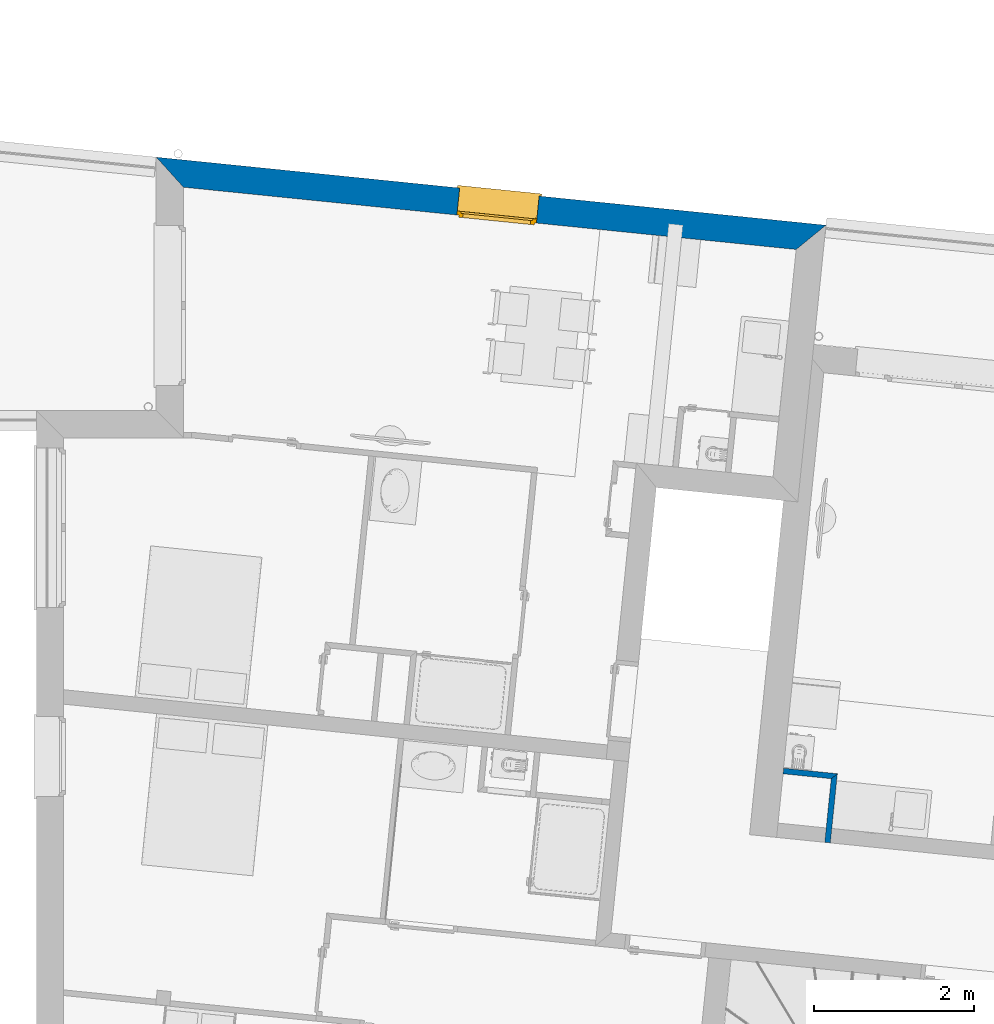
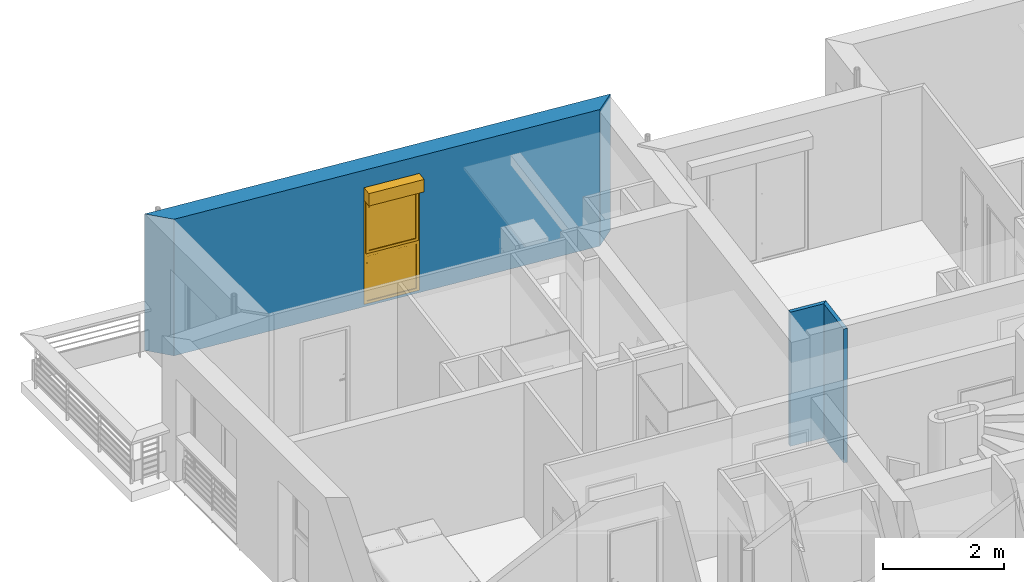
# One storey, part 64 of 164: 3 walls, 1 window, 1 opening.
"""IFC2X3 building model written with IfcOpenShell, lengths in millimetres."""

from ifc_helpers import new_model, entity, si_unit, converted_unit, derived_unit, money_unit, direction, frame, origin_with_axes, place, context, subcontext, project, spatial, polyline, outline, extrude, open_shell, faceted_brep, surface_model, source, transform, mapped, material, layer, layer_set, layer_usage, type_object, element, fill, save


model = new_model("IFC2X3")

# Units and contexts
model_context = context("Model", 3, precision=0.01, world=origin_with_axes(), true_north=direction((0.0, 1.0)))
body_context = subcontext(model_context, "Body", "Model", "MODEL_VIEW")
ifc_project = project(units=[si_unit("LENGTHUNIT", "METRE", prefix="MILLI"), si_unit("AREAUNIT", "SQUARE_METRE"), si_unit("VOLUMEUNIT", "CUBIC_METRE"), converted_unit("PLANEANGLEUNIT", "DEGREE", entity("IfcPlaneAngleMeasure", 0.0174532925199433), si_unit("PLANEANGLEUNIT", "RADIAN"), dimensions=[0, 0, 0, 0, 0, 0, 0]), money_unit("USD"), converted_unit("TIMEUNIT", "Year", entity("IfcTimeMeasure", 31557600.0), si_unit("TIMEUNIT", "SECOND"), dimensions=[0, 0, 1, 0, 0, 0, 0]), si_unit("MASSUNIT", "GRAM", prefix="KILO"), si_unit("THERMODYNAMICTEMPERATUREUNIT", "DEGREE_CELSIUS"), si_unit("LUMINOUSINTENSITYUNIT", "LUMEN"), si_unit("ENERGYUNIT", "JOULE", prefix="MEGA"), derived_unit("THERMALCONDUCTANCEUNIT", [(si_unit("POWERUNIT", "WATT"), 1), (si_unit("LENGTHUNIT", "METRE"), -1), (si_unit("THERMODYNAMICTEMPERATUREUNIT", "KELVIN"), -1)]), derived_unit("SPECIFICHEATCAPACITYUNIT", [(si_unit("ENERGYUNIT", "JOULE"), 1), (si_unit("MASSUNIT", "GRAM", prefix="KILO"), -1), (si_unit("THERMODYNAMICTEMPERATUREUNIT", "KELVIN"), -1)]), derived_unit("MASSDENSITYUNIT", [(si_unit("MASSUNIT", "GRAM", prefix="KILO"), 1), (si_unit("VOLUMEUNIT", "CUBIC_METRE"), -1)])], contexts=[model_context])

# Site, building, storey
site_placement = place(None, origin_with_axes())
site = spatial("IfcSite", under=ifc_project, at=site_placement, Name="Site", CompositionType="ELEMENT")
building_placement = place(site_placement, origin_with_axes())
building = spatial("IfcBuilding", under=site, at=building_placement, Name="Bâtiment", CompositionType="ELEMENT")
storey_placement = place(building_placement, frame((0.0, 0.0, 5750.0), z_axis=(0.0, 0.0, 1.0), x_axis=(1.0, 0.0, 0.0)))
storey = spatial("IfcBuildingStorey", under=building, at=storey_placement, Name="Etage1", CompositionType="ELEMENT", Elevation=5750.0)

# Walls
ifc_material_1 = material(Name="Hachure solide 269229667")
ifc_layer_1 = layer(ifc_material_1, 70.0, ventilated="UNKNOWN")
ifc_layer_set_1 = layer_set([ifc_layer_1], Name="Cloison 70 0836576958")
ifc_layer_usage_1 = layer_usage(ifc_layer_set_1, "AXIS2", "POSITIVE", 0.0)
wall_type_1 = type_object("IfcWallType", Name="Cloison 70 0836576958 70", PredefinedType="NOTDEFINED")
wall_1_placement = place(storey_placement, frame((2226567.530194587, -612573.9795899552, 0.0), z_axis=(0.0, 0.0, 1.0), x_axis=(0.1011029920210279, 0.9948759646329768, 0.0)))
element("IfcWallStandardCase", 1, at=wall_1_placement, inside=storey, type_object=wall_type_1, material=ifc_layer_usage_1, Name="Mur-148", context=body_context, shape_type="SweptSolid", body=[
    extrude(outline(polyline([(0.0, 0.0), (869.3850035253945, 0.0), (799.4288472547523, 69.99999999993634), (0.0, 69.99999999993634), (0.0, 0.0)])), origin_with_axes(), (0.0, 0.0, 1.0), 2700.0),
])
ifc_layer_usage_2 = layer_usage(ifc_layer_set_1, "AXIS2", "POSITIVE", 0.0)
wall_2_placement = place(storey_placement, frame((2226655.427619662, -611709.0493459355, 0.0), z_axis=(0.0, 0.0, 1.0), x_axis=(-0.9948124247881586, 0.1017262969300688, 0.0)))
element("IfcWallStandardCase", 2, at=wall_2_placement, inside=storey, type_object=wall_type_1, material=ifc_layer_usage_2, Name="Mur-148", context=body_context, shape_type="SweptSolid", body=[
    extrude(outline(polyline([(0.0, 0.0), (675.8383070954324, 0.0), (675.7944658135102, 69.99999999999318), (69.95615627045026, 69.99999999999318), (0.0, 0.0)])), origin_with_axes(), (0.0, 0.0, 1.0), 2700.0),
])

# Wall, opening, window
ifc_material_2 = material(Name="Parpaing 312445824")
ifc_layer_2 = layer(ifc_material_2, 180.0, ventilated="UNKNOWN")
ifc_material_3 = material(Name="Isolant styromousse 301821074")
ifc_layer_3 = layer(ifc_material_3, 160.0, ventilated="UNKNOWN")
ifc_layer_set_2 = layer_set([ifc_layer_2, ifc_layer_3], Name="isol int 18+16 0018356637")
ifc_layer_usage_3 = layer_usage(ifc_layer_set_2, "AXIS2", "POSITIVE", 0.0)
wall_type_2 = type_object("IfcWallType", Name="isol int 18+16 0018356637 340", PredefinedType="NOTDEFINED")
wall_3_placement = place(storey_placement, frame((2226512.64140385, -604846.9212674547, 0.0), z_axis=(0.0, 0.0, 1.0), x_axis=(-0.9948759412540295, 0.1011032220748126, 0.0)))
wall_3 = element("IfcWallStandardCase", 3, at=wall_3_placement, inside=storey, type_object=wall_type_2, material=ifc_layer_usage_3, Name="Mur-142", context=body_context, shape_type="SweptSolid", body=[
    extrude(outline(polyline([(0.0, 0.0), (8421.560630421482, 0.0), (8045.257334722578, 339.9999999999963), (340.0000338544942, 339.9999999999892), (0.0, 0.0)])), origin_with_axes(), (0.0, 0.0, 1.0), 2750.0),
])
opening_placement = place(wall_3_placement, frame((4106.165930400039, 0.0, 49.99999999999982), z_axis=(0.0, 0.0, 1.0), x_axis=(1.0, 0.0, 0.0)))
opening = element("IfcOpeningElement", 4, at=opening_placement, cuts=wall_3, Name="Fen-133", context=body_context, shape_type="Brep", body=[
    faceted_brep([(500.0, 280.0000000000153, 2100.0), (-500.0, 280.0000000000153, 2100.0), (-500.0, -848.084050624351, 2100.0), (499.9999999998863, -848.084050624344, 2100.0), (500.0, 280.0000000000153, 2350.0), (-500.0, 280.0000000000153, 2350.0), (-500.0, 289.9999999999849, 2100.0), (-500.0000000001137, 289.9999999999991, 0.0), (-500.0, -848.084050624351, 0.0), (499.9999999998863, -848.084050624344, 0.0), (499.9999999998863, 290.0000000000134, 2100.0), (499.9999999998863, 290.0000000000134, 0.0), (499.9999999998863, 530.0000000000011, 2100.0), (499.9999999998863, 530.0000000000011, 2350.0), (-500.0000000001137, 530.0000000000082, 2350.0), (-500.0000000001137, 530.0000000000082, 2100.0), (-500.0000000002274, 1188.084050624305, 2100.0), (-500.0000000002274, 1188.084050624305, 0.0), (500.0, 1188.084050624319, 0.0), (500.0, 1188.084050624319, 2100.0)], [[[0, 1, 2, 3]], [[1, 0, 4, 5]], [[1, 6, 7, 8, 2]], [[2, 8, 9, 3]], [[10, 0, 3, 9, 11]], [[0, 10, 12, 13, 4]], [[4, 13, 14, 5]], [[6, 1, 5, 14, 15]], [[6, 15, 16, 17, 7]], [[11, 9, 8, 7, 17, 18]], [[12, 10, 11, 18, 19]], [[12, 15, 14, 13]], [[15, 12, 19, 16]], [[19, 18, 17, 16]]]),
])
window_style = type_object("IfcWindowStyle", Name="Fenêtre 27", ConstructionType="NOTDEFINED", OperationType="DOUBLE_PANEL_HORIZONTAL", ParameterTakesPrecedence=False, Sizeable=False)
shared_shape = source(origin_with_axes(), body_context, "Body", "SurfaceModel", [
    surface_model("IfcShellBasedSurfaceModel", [(500.0, -51.00000000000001, 40.00000000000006), (500.0, -51.00000000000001, 50.00000000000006), (-500.0, -51.00000000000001, 50.0), (-500.0, -51.00000000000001, 40.0), (530.0, -369.9999999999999, 28.96551724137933), (530.0, -339.9999999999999, 30.00324289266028), (500.0, -339.9999999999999, 30.00324289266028), (-500.0, -339.9999999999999, 30.00324289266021), (-530.0, -339.9999999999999, 30.00324289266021), (-530.0, -369.9999999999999, 28.96551724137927), (530.0, -369.9999999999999, 8.96551724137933), (-530.0, -369.9999999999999, 8.965517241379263), (530.0, -359.9999999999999, 18.96551724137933), (-530.0, -359.9999999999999, 18.96551724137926)], [open_shell([[[0, 1, 2, 3]], [[4, 5, 6, 0, 3, 7, 8, 9]], [[10, 4, 9, 11]], [[12, 10, 11, 13]]])]),
    faceted_brep([(-500.0, -59.99999999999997, 2350.0), (-497.0, -59.99999999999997, 2350.0), (-497.0, 190.0, 2350.0), (-500.0, 190.0, 2350.0), (-500.0, -59.99999999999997, 2100.0), (-497.0, -59.99999999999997, 2100.0), (-497.0, 190.0, 2100.0), (-500.0, 190.0, 2100.0)], [[[0, 1, 2, 3]], [[4, 5, 1, 0]], [[1, 5, 6, 2]], [[3, 2, 6, 7]], [[0, 3, 7, 4]], [[7, 6, 5, 4]]]),
    faceted_brep([(497.0, -59.99999999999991, 2350.0), (500.0, -59.99999999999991, 2350.0), (500.0, 190.0000000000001, 2350.0), (497.0, 190.0000000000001, 2350.0), (497.0, -59.99999999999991, 2100.0), (500.0, -59.99999999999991, 2100.0), (500.0, 190.0000000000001, 2100.0), (497.0, 190.0000000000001, 2100.0)], [[[0, 1, 2, 3]], [[4, 5, 1, 0]], [[1, 5, 6, 2]], [[3, 2, 6, 7]], [[0, 3, 7, 4]], [[7, 6, 5, 4]]]),
    faceted_brep([(-497.0, -60.0, 2100.0), (497.0, -59.99999999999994, 2100.0), (497.0, -59.99999999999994, 2350.0), (-497.0, -60.0, 2350.0), (-497.0, -56.99999999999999, 2100.0), (497.0, -56.99999999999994, 2100.0), (497.0, -56.99999999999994, 2347.0), (497.0, 187.0000000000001, 2347.0), (497.0, 187.0000000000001, 2103.0), (497.0, -37.99999999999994, 2103.0), (497.0, -37.99999999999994, 2100.0), (497.0, 190.0000000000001, 2100.0), (497.0, 190.0000000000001, 2350.0), (-497.0, 190.0, 2350.0), (-497.0, 190.0, 2100.0), (-497.0, -37.99999999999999, 2100.0), (-497.0, -37.99999999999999, 2103.0), (-497.0, 187.0, 2103.0), (-497.0, 187.0, 2347.0), (-497.0, -56.99999999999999, 2347.0)], [[[0, 1, 2, 3]], [[4, 5, 1, 0]], [[1, 5, 6, 7, 8, 9, 10, 11, 12, 2]], [[3, 2, 12, 13]], [[0, 3, 13, 14, 15, 16, 17, 18, 19, 4]], [[19, 6, 5, 4]], [[18, 7, 6, 19]], [[17, 8, 7, 18]], [[16, 9, 8, 17]], [[15, 10, 9, 16]], [[14, 11, 10, 15]], [[13, 12, 11, 14]]]),
    faceted_brep([(-494.0, -40.37442957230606, 2206.419644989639), (-494.0, -41.99999999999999, 2225.0), (-494.0, -40.37442957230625, 2243.580355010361), (-494.0, -35.54711042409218, 2261.596155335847), (-494.0, -27.66471820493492, 2278.5), (-494.0, -16.96675541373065, 2293.77827423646), (-494.0, -3.778274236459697, 2306.966755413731), (-494.0, 11.5, 2317.664718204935), (-494.0, 28.40384466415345, 2325.547110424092), (-494.0, 46.41964498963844, 2330.374429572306), (-494.0, 64.99999999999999, 2332.0), (-494.0, 83.58035501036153, 2330.374429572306), (-494.0, 101.5961553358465, 2325.547110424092), (-494.0, 118.5, 2317.664718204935), (-494.0, 133.7782742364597, 2306.966755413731), (-494.0, 146.9667554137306, 2293.77827423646), (-494.0, 157.6647182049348, 2278.5), (-494.0, 165.5471104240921, 2261.596155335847), (-494.0, 170.3744295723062, 2243.580355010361), (-494.0, 171.9999999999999, 2225.0), (-494.0, 170.3744295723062, 2206.419644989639), (-494.0, 165.5471104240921, 2188.403844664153), (-494.0, 157.6647182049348, 2171.5), (-494.0, 146.9667554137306, 2156.22172576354), (-494.0, 133.7782742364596, 2143.03324458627), (-494.0, 118.4999999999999, 2132.335281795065), (-494.0, 101.5961553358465, 2124.452889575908), (-494.0, 83.58035501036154, 2119.625570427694), (-494.0, 65.00000000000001, 2118.0), (-494.0, 46.4196449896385, 2119.625570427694), (-494.0, 28.40384466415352, 2124.452889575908), (-494.0, 11.50000000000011, 2132.335281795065), (-494.0, -3.778274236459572, 2143.03324458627), (-494.0, -16.9667554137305, 2156.22172576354), (-494.0, -27.66471820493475, 2171.5), (-494.0, -35.54711042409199, 2188.403844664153), (494.0, -40.374429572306, 2206.419644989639), (494.0, -41.99999999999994, 2225.0), (494.0, -40.37442957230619, 2243.580355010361), (494.0, -35.54711042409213, 2261.596155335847), (494.0, -27.66471820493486, 2278.5), (494.0, -16.96675541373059, 2293.77827423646), (494.0, -3.778274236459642, 2306.966755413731), (494.0, 11.50000000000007, 2317.664718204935), (494.0, 28.40384466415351, 2325.547110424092), (494.0, 46.41964498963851, 2330.374429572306), (494.0, 65.00000000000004, 2332.0), (494.0, 83.58035501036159, 2330.374429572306), (494.0, 101.5961553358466, 2325.547110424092), (494.0, 118.5, 2317.664718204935), (494.0, 133.7782742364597, 2306.966755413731), (494.0, 146.9667554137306, 2293.77827423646), (494.0, 157.6647182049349, 2278.5), (494.0, 165.5471104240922, 2261.596155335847), (494.0, 170.3744295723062, 2243.580355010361), (494.0, 172.0, 2225.0), (494.0, 170.3744295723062, 2206.419644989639), (494.0, 165.5471104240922, 2188.403844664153), (494.0, 157.6647182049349, 2171.5), (494.0, 146.9667554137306, 2156.22172576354), (494.0, 133.7782742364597, 2143.03324458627), (494.0, 118.5, 2132.335281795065), (494.0, 101.5961553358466, 2124.452889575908), (494.0, 83.5803550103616, 2119.625570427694), (494.0, 65.00000000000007, 2118.0), (494.0, 46.41964498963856, 2119.625570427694), (494.0, 28.40384466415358, 2124.452889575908), (494.0, 11.50000000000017, 2132.335281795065), (494.0, -3.778274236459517, 2143.03324458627), (494.0, -16.96675541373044, 2156.22172576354), (494.0, -27.6647182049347, 2171.5), (494.0, -35.54711042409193, 2188.403844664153)], [[[0, 1, 2, 3, 4, 5, 6, 7, 8, 9, 10, 11, 12, 13, 14, 15, 16, 17, 18, 19, 20, 21, 22, 23, 24, 25, 26, 27, 28, 29, 30, 31, 32, 33, 34, 35]], [[0, 36, 37, 1]], [[1, 37, 38, 2]], [[2, 38, 39, 3]], [[3, 39, 40, 4]], [[4, 40, 41, 5]], [[5, 41, 42, 6]], [[6, 42, 43, 7]], [[7, 43, 44, 8]], [[8, 44, 45, 9]], [[9, 45, 46, 10]], [[10, 46, 47, 11]], [[11, 47, 48, 12]], [[12, 48, 49, 13]], [[13, 49, 50, 14]], [[14, 50, 51, 15]], [[15, 51, 52, 16]], [[16, 52, 53, 17]], [[17, 53, 54, 18]], [[18, 54, 55, 19]], [[19, 55, 56, 20]], [[20, 56, 57, 21]], [[21, 57, 58, 22]], [[22, 58, 59, 23]], [[23, 59, 60, 24]], [[24, 60, 61, 25]], [[25, 61, 62, 26]], [[26, 62, 63, 27]], [[27, 63, 64, 28]], [[28, 64, 65, 29]], [[29, 65, 66, 30]], [[30, 66, 67, 31]], [[31, 67, 68, 32]], [[32, 68, 69, 33]], [[33, 69, 70, 34]], [[34, 70, 71, 35]], [[35, 71, 36, 0]], [[36, 71, 70, 69, 68, 67, 66, 65, 64, 63, 62, 61, 60, 59, 58, 57, 56, 55, 54, 53, 52, 51, 50, 49, 48, 47, 46, 45, 44, 43, 42, 41, 40, 39, 38, 37]]]),
    faceted_brep([(500.0, -34.99999999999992, 30.0), (500.0, -34.99999999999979, 2100.0), (500.0, -59.99999999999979, 2100.0), (500.0, -59.99999999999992, 30.0), (475.0, -34.99999999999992, 30.0), (475.0, -34.99999999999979, 2100.0), (475.0, -37.99999999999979, 2100.0), (497.0, -37.99999999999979, 2100.0), (497.0, -56.99999999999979, 2100.0), (475.0, -56.99999999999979, 2100.0), (475.0, -59.99999999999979, 2100.0), (475.0, -59.99999999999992, 30.0), (475.0, -56.99999999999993, 30.0), (497.0, -56.99999999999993, 30.0), (497.0, -37.99999999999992, 30.0), (475.0, -37.99999999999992, 30.0)], [[[0, 1, 2, 3]], [[4, 5, 1, 0]], [[1, 5, 6, 7, 8, 9, 10, 2]], [[3, 2, 10, 11]], [[0, 3, 11, 12, 13, 14, 15, 4]], [[15, 6, 5, 4]], [[14, 7, 6, 15]], [[13, 8, 7, 14]], [[12, 9, 8, 13]], [[11, 10, 9, 12]]]),
    faceted_brep([(-500.0, -34.99999999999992, 30.0), (-500.0, -59.99999999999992, 30.0), (-500.0, -59.99999999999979, 2100.0), (-500.0, -34.99999999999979, 2100.0), (-475.0, -34.99999999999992, 30.0), (-475.0, -37.99999999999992, 30.0), (-497.0, -37.99999999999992, 30.0), (-497.0, -56.99999999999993, 30.0), (-475.0, -56.99999999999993, 30.0), (-475.0, -59.99999999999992, 30.0), (-475.0, -59.99999999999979, 2100.0), (-475.0, -56.99999999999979, 2100.0), (-497.0, -56.99999999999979, 2100.0), (-497.0, -37.99999999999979, 2100.0), (-475.0, -37.99999999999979, 2100.0), (-475.0, -34.99999999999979, 2100.0)], [[[0, 1, 2, 3]], [[0, 4, 5, 6, 7, 8, 9, 1]], [[1, 9, 10, 2]], [[3, 2, 10, 11, 12, 13, 14, 15]], [[4, 0, 3, 15]], [[5, 4, 15, 14]], [[6, 5, 14, 13]], [[7, 6, 13, 12]], [[8, 7, 12, 11]], [[9, 8, 11, 10]]]),
    faceted_brep([(497.0, -46.66666666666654, 2225.0), (497.0, -46.66666666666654, 2216.666666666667), (-497.0, -46.6666666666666, 2216.666666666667), (-497.0, -46.6666666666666, 2225.0), (497.0, -51.66666666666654, 2225.0), (497.0, -51.66666666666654, 2216.666666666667), (497.0, -49.99999999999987, 2200.0), (497.0, -44.99999999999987, 2200.0), (-497.0, -44.99999999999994, 2200.0), (-497.0, -49.99999999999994, 2200.0), (-497.0, -51.6666666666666, 2216.666666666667), (-497.0, -51.6666666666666, 2225.0)], [[[0, 1, 2, 3]], [[4, 5, 6, 7, 1, 0]], [[2, 1, 7, 8]], [[3, 2, 8, 9, 10, 11]], [[3, 11, 4, 0]], [[10, 5, 4, 11]], [[9, 6, 5, 10]], [[8, 7, 6, 9]]]),
    faceted_brep([(-497.0, -44.99999999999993, 2200.0), (497.0, -44.99999999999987, 2200.0), (497.0, -46.66666666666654, 2183.333333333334), (-497.0, -46.6666666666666, 2183.333333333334), (-497.0, -49.99999999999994, 2200.0), (497.0, -49.99999999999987, 2200.0), (497.0, -51.66666666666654, 2183.333333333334), (497.0, -51.66666666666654, 2166.666666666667), (497.0, -49.99999999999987, 2150.000000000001), (497.0, -44.99999999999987, 2150.000000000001), (497.0, -46.66666666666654, 2166.666666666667), (-497.0, -46.6666666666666, 2166.666666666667), (-497.0, -44.99999999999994, 2150.000000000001), (-497.0, -49.99999999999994, 2150.000000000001), (-497.0, -51.6666666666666, 2166.666666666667), (-497.0, -51.6666666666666, 2183.333333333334)], [[[0, 1, 2, 3]], [[4, 5, 1, 0]], [[1, 5, 6, 7, 8, 9, 10, 2]], [[3, 2, 10, 11]], [[0, 3, 11, 12, 13, 14, 15, 4]], [[15, 6, 5, 4]], [[14, 7, 6, 15]], [[13, 8, 7, 14]], [[12, 9, 8, 13]], [[11, 10, 9, 12]]]),
    faceted_brep([(-497.0, -44.99999999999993, 2150.000000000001), (497.0, -44.99999999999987, 2150.000000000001), (497.0, -46.66666666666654, 2133.333333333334), (-497.0, -46.6666666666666, 2133.333333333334), (-497.0, -49.99999999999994, 2150.000000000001), (497.0, -49.99999999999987, 2150.000000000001), (497.0, -51.66666666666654, 2133.333333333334), (497.0, -51.66666666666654, 2116.666666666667), (497.0, -49.99999999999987, 2100.000000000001), (497.0, -44.99999999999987, 2100.000000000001), (497.0, -46.66666666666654, 2116.666666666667), (-497.0, -46.6666666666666, 2116.666666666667), (-497.0, -44.99999999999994, 2100.000000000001), (-497.0, -49.99999999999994, 2100.000000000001), (-497.0, -51.6666666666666, 2116.666666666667), (-497.0, -51.6666666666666, 2133.333333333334)], [[[0, 1, 2, 3]], [[4, 5, 1, 0]], [[1, 5, 6, 7, 8, 9, 10, 2]], [[3, 2, 10, 11]], [[0, 3, 11, 12, 13, 14, 15, 4]], [[15, 6, 5, 4]], [[14, 7, 6, 15]], [[13, 8, 7, 14]], [[12, 9, 8, 13]], [[11, 10, 9, 12]]]),
    faceted_brep([(-475.0000000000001, 0.0, 2050.0), (-500.0, 0.0, 2050.0), (-500.0, -50.00000000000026, 2050.0), (-450.0, -50.00000000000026, 2050.0), (-450.0, -25.00000000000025, 2050.0), (-475.0000000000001, -25.00000000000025, 2050.0), (-475.0000000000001, 0.0, 1025.0), (-450.0, 0.0, 1025.0), (-450.0, 0.0, 950.0), (-450.0, 0.0, 50.00000000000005), (-500.0, 0.0, 50.00000000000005), (-500.0, -50.00000000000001, 50.00000000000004), (-450.0, -50.00000000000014, 1050.0), (-450.0, -50.00000000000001, 50.00000000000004), (-450.0, -50.00000000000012, 950.0), (-450.0, -25.00000000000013, 1050.0), (-450.0, -25.00000000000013, 1025.0), (-475.0000000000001, -25.00000000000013, 1025.0)], [[[0, 1, 2, 3, 4, 5]], [[6, 7, 8, 9, 10, 1, 0]], [[1, 10, 11, 2]], [[12, 3, 2, 11, 13, 14]], [[4, 3, 12, 15]], [[15, 16, 17, 5, 4]], [[5, 17, 6, 0]], [[6, 17, 16, 7]], [[16, 15, 12, 14, 8, 7]], [[9, 8, 14, 13]], [[10, 9, 13, 11]]]),
    faceted_brep([(450.0, -25.00000000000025, 2050.0), (450.0, -50.00000000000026, 2050.0), (500.0, -50.00000000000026, 2050.0), (500.0, 0.0, 2050.0), (475.0000000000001, 0.0, 2050.0), (475.0000000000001, -25.00000000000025, 2050.0), (450.0, -25.00000000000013, 1050.0), (450.0, -50.00000000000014, 1050.0), (500.0, -50.00000000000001, 50.00000000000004), (450.0, -50.00000000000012, 950.0), (450.0, -50.00000000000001, 50.00000000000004), (500.0, 0.0, 50.00000000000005), (475.0000000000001, 0.0, 1025.0), (450.0, 0.0, 50.00000000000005), (450.0, 0.0, 950.0), (450.0, 0.0, 1025.0), (475.0000000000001, -25.00000000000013, 1025.0), (450.0, -25.00000000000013, 1025.0)], [[[0, 1, 2, 3, 4, 5]], [[6, 7, 1, 0]], [[8, 2, 1, 7, 9, 10]], [[11, 3, 2, 8]], [[12, 4, 3, 11, 13, 14, 15]], [[12, 16, 5, 4]], [[5, 16, 17, 6, 0]], [[17, 15, 14, 9, 7, 6]], [[14, 13, 10, 9]], [[13, 11, 8, 10]], [[15, 17, 16, 12]]]),
    faceted_brep([(-450.0, -25.00000000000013, 1050.0), (-450.0, -50.00000000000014, 1050.0), (450.0, -50.00000000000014, 1050.0), (450.0, -25.00000000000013, 1050.0), (-450.0, -25.00000000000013, 1025.0), (-450.0, 0.0, 1025.0), (-450.0, 0.0, 950.0), (-450.0, -50.00000000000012, 950.0), (450.0, -50.00000000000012, 950.0), (450.0, -25.00000000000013, 1025.0), (450.0, 0.0, 950.0), (450.0, 0.0, 1025.0)], [[[0, 1, 2, 3]], [[4, 5, 6, 7, 1, 0]], [[8, 2, 1, 7]], [[9, 3, 2, 8, 10, 11]], [[9, 4, 0, 3]], [[5, 4, 9, 11]], [[11, 10, 6, 5]], [[6, 10, 8, 7]]]),
    faceted_brep([(-475.0000000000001, 0.0, 2050.0), (-500.0, 0.0, 2050.0), (-500.0, 0.0, 2100.0), (500.0, 0.0, 2100.0), (500.0, 0.0, 2050.0), (475.0000000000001, 0.0, 2050.0), (475.0000000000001, 0.0, 2075.0), (-475.0000000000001, 0.0, 2075.0), (-475.0000000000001, -25.00000000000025, 2050.0), (-450.0, -25.00000000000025, 2050.0), (-450.0, -50.00000000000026, 2050.0), (-500.0, -50.00000000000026, 2050.0), (-500.0, -50.00000000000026, 2100.0), (500.0, -50.00000000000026, 2100.0), (500.0, -50.00000000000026, 2050.0), (475.0000000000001, -25.00000000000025, 2050.0), (450.0, -50.00000000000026, 2050.0), (450.0, -25.00000000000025, 2050.0), (475.0000000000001, -25.00000000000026, 2075.0), (-475.0000000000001, -25.00000000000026, 2075.0)], [[[0, 1, 2, 3, 4, 5, 6, 7]], [[8, 9, 10, 11, 1, 0]], [[2, 1, 11, 12]], [[3, 2, 12, 13]], [[4, 3, 13, 14]], [[15, 5, 4, 14, 16, 17]], [[5, 15, 18, 6]], [[6, 18, 19, 7]], [[7, 19, 8, 0]], [[17, 9, 8, 19, 18, 15]], [[17, 16, 10, 9]], [[14, 13, 12, 11, 10, 16]]]),
    faceted_brep([(-450.0, -50.00000000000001, 50.0), (-450.0, 0.0, 50.00000000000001), (-500.0, 0.0, 50.00000000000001), (-500.0, -50.00000000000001, 50.0), (450.0, -50.00000000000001, 50.0), (450.0, 0.0, 50.00000000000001), (500.0, 0.0, 50.00000000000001), (500.0, 0.0, 0.0), (-500.0, 0.0, 0.0), (-500.0, -50.0, 0.0), (500.0, -50.0, 0.0), (500.0, -50.00000000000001, 50.0)], [[[0, 1, 2, 3]], [[4, 5, 1, 0]], [[1, 5, 6, 7, 8, 2]], [[3, 2, 8, 9]], [[0, 3, 9, 10, 11, 4]], [[11, 6, 5, 4]], [[10, 7, 6, 11]], [[9, 8, 7, 10]]]),
    faceted_brep([(-425.0000000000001, -25.00000000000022, 2025.0), (-425.0000000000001, 24.99999999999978, 2025.0), (-475.0000000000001, 24.99999999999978, 2025.0), (-475.0000000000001, -25.00000000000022, 2025.0), (-425.0000000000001, -25.00000000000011, 1075.0), (-425.0000000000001, 24.9999999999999, 1075.0), (-475.0000000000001, 24.9999999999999, 1075.0), (-475.0000000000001, -25.0000000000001, 1075.0)], [[[0, 1, 2, 3]], [[4, 5, 1, 0]], [[1, 5, 6, 2]], [[3, 2, 6, 7]], [[0, 3, 7, 4]], [[7, 6, 5, 4]]]),
    faceted_brep([(425.0000000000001, -25.00000000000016, 1075.0), (425.0000000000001, 24.99999999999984, 1075.0), (475.0000000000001, 24.99999999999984, 1075.0), (475.0000000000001, -25.00000000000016, 1075.0), (425.0000000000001, -25.00000000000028, 2025.0), (425.0000000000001, 24.99999999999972, 2025.0), (475.0000000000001, 24.99999999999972, 2025.0), (475.0000000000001, -25.00000000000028, 2025.0)], [[[0, 1, 2, 3]], [[4, 5, 1, 0]], [[1, 5, 6, 2]], [[3, 2, 6, 7]], [[0, 3, 7, 4]], [[7, 6, 5, 4]]]),
    faceted_brep([(475.0000000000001, -25.00000000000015, 1025.0), (475.0000000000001, 24.99999999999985, 1025.0), (475.0000000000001, 24.99999999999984, 1075.0), (475.0000000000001, -25.00000000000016, 1075.0), (-475.0000000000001, -25.0000000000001, 1025.0), (-475.0000000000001, 24.9999999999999, 1025.0), (-475.0000000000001, 24.9999999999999, 1075.0), (-425.0000000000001, 24.9999999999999, 1075.0), (425.0000000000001, 24.99999999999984, 1075.0), (425.0000000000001, -25.00000000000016, 1075.0), (-425.0000000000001, -25.00000000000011, 1075.0), (-475.0000000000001, -25.0000000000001, 1075.0)], [[[0, 1, 2, 3]], [[4, 5, 1, 0]], [[1, 5, 6, 7, 8, 2]], [[3, 2, 8, 9]], [[0, 3, 9, 10, 11, 4]], [[11, 6, 5, 4]], [[10, 7, 6, 11]], [[9, 8, 7, 10]]]),
    faceted_brep([(-475.0000000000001, -25.00000000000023, 2075.0), (-475.0000000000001, 24.99999999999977, 2075.0), (-475.0000000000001, 24.99999999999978, 2025.0), (-475.0000000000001, -25.00000000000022, 2025.0), (475.0000000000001, -25.00000000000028, 2075.0), (475.0000000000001, 24.99999999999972, 2075.0), (475.0000000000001, 24.99999999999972, 2025.0), (425.0000000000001, 24.99999999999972, 2025.0), (-425.0000000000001, 24.99999999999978, 2025.0), (-425.0000000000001, -25.00000000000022, 2025.0), (425.0000000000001, -25.00000000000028, 2025.0), (475.0000000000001, -25.00000000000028, 2025.0)], [[[0, 1, 2, 3]], [[4, 5, 1, 0]], [[1, 5, 6, 7, 8, 2]], [[3, 2, 8, 9]], [[0, 3, 9, 10, 11, 4]], [[11, 6, 5, 4]], [[10, 7, 6, 11]], [[9, 8, 7, 10]]]),
    surface_model("IfcShellBasedSurfaceModel", [(-425.0000000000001, -10.00000000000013, 1075.0), (425.0000000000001, -10.00000000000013, 1075.0), (425.0000000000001, -10.00000000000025, 2025.0), (-425.0000000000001, -10.00000000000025, 2025.0)], [open_shell([[[0, 1, 2, 3]]])]),
    surface_model("IfcShellBasedSurfaceModel", [(-425.0000000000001, 9.999999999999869, 1075.0), (-425.0000000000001, 9.999999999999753, 2025.0), (425.0000000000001, 9.999999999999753, 2025.0), (425.0000000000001, 9.999999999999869, 1075.0)], [open_shell([[[0, 1, 2, 3]]])]),
    surface_model("IfcShellBasedSurfaceModel", [(-450.0, -35.0, 49.99999999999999), (450.0, -35.0, 49.99999999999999), (450.0, -35.00000000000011, 950.0), (-450.0, -35.00000000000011, 950.0)], [open_shell([[[0, 1, 2, 3]]])]),
    surface_model("IfcShellBasedSurfaceModel", [(-450.0, -15.0, 49.99999999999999), (-450.0, -15.00000000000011, 950.0), (450.0, -15.00000000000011, 950.0), (450.0, -15.0, 49.99999999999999)], [open_shell([[[0, 1, 2, 3]]])]),
])
window_placement = place(opening_placement, frame((-499.9999999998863, 0.0, 0.0), z_axis=(0.0, 0.0, 1.0), x_axis=(1.0, 0.0, 0.0)))
window = element("IfcWindow", 5, at=window_placement, inside=storey, type_object=window_style, Name="Fen-133", OverallHeight=2100.0, OverallWidth=1000.0, context=body_context, shape_type="MappedRepresentation", body=[
    mapped(shared_shape, transform((500.0, 340.0000000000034, 0.0))),
])
fill(opening, window)

save(model, "model.ifc")
